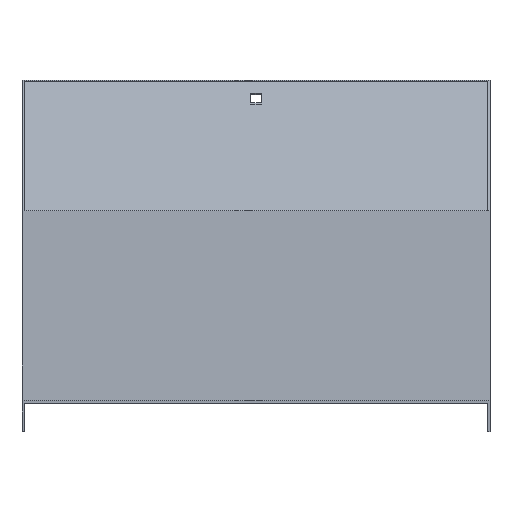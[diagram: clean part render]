
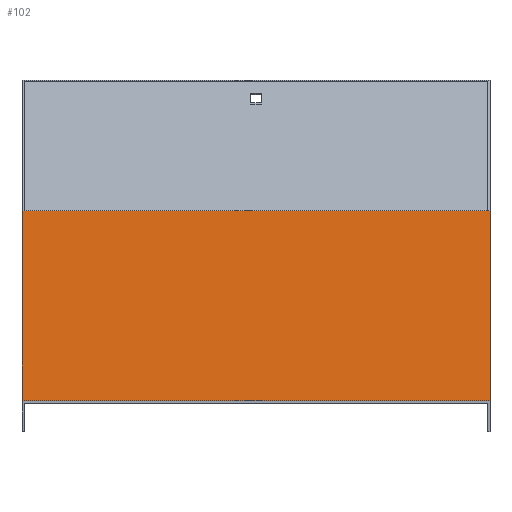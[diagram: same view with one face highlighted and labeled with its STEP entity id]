
A CAD part, top view. The second image highlights one B-rep face of the part: STEP entity #102.
In plain terms, the highlighted planar face has unit normal (0, 0.924, 0.383).
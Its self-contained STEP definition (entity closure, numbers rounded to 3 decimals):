
#15 = VERTEX_POINT ( 'NONE', #291 ) ;
#56 = EDGE_CURVE ( 'NONE', #15, #807, #751, .T. ) ;
#68 = PLANE ( 'NONE',  #195 ) ;
#71 = CARTESIAN_POINT ( 'NONE',  ( -151.5, 0., -120. ) ) ;
#75 = DIRECTION ( 'NONE',  ( -1., 0., 0. ) ) ;
#99 = VERTEX_POINT ( 'NONE', #71 ) ;
#100 = EDGE_CURVE ( 'NONE', #99, #680, #471, .T. ) ;
#102 = ADVANCED_FACE ( 'NONE', ( #544 ), #68, .T. ) ;
#127 = ORIENTED_EDGE ( 'NONE', *, *, #100, .F. ) ;
#128 = DIRECTION ( 'NONE',  ( 0., 0.383, -0.924 ) ) ;
#135 = VECTOR ( 'NONE', #504, 1000. ) ;
#169 = CARTESIAN_POINT ( 'NONE',  ( -151.5, 123.607, -418.413 ) ) ;
#195 = AXIS2_PLACEMENT_3D ( 'NONE', #209, #216, #413 ) ;
#209 = CARTESIAN_POINT ( 'NONE',  ( 151.5, 0., -120. ) ) ;
#216 = DIRECTION ( 'NONE',  ( 0., 0.924, 0.383 ) ) ;
#224 = ORIENTED_EDGE ( 'NONE', *, *, #56, .T. ) ;
#262 = EDGE_LOOP ( 'NONE', ( #127, #661, #224, #593 ) ) ;
#288 = CARTESIAN_POINT ( 'NONE',  ( 151.5, 0., -120. ) ) ;
#291 = CARTESIAN_POINT ( 'NONE',  ( 151.5, 0., -120. ) ) ;
#313 = EDGE_CURVE ( 'NONE', #15, #99, #806, .T. ) ;
#357 = EDGE_CURVE ( 'NONE', #807, #680, #644, .T. ) ;
#413 = DIRECTION ( 'NONE',  ( 0., -0.383, 0.924 ) ) ;
#442 = DIRECTION ( 'NONE',  ( -1., 0., 0. ) ) ;
#471 = LINE ( 'NONE', #483, #683 ) ;
#483 = CARTESIAN_POINT ( 'NONE',  ( -151.5, 0., -120. ) ) ;
#504 = DIRECTION ( 'NONE',  ( 0., 0.383, -0.924 ) ) ;
#537 = CARTESIAN_POINT ( 'NONE',  ( 151.5, 0., -120. ) ) ;
#544 = FACE_OUTER_BOUND ( 'NONE', #262, .T. ) ;
#593 = ORIENTED_EDGE ( 'NONE', *, *, #357, .T. ) ;
#644 = LINE ( 'NONE', #832, #731 ) ;
#661 = ORIENTED_EDGE ( 'NONE', *, *, #313, .F. ) ;
#667 = VECTOR ( 'NONE', #75, 1000. ) ;
#680 = VERTEX_POINT ( 'NONE', #169 ) ;
#683 = VECTOR ( 'NONE', #128, 1000. ) ;
#731 = VECTOR ( 'NONE', #442, 1000. ) ;
#751 = LINE ( 'NONE', #288, #135 ) ;
#806 = LINE ( 'NONE', #537, #667 ) ;
#807 = VERTEX_POINT ( 'NONE', #845 ) ;
#832 = CARTESIAN_POINT ( 'NONE',  ( 151.5, 123.607, -418.413 ) ) ;
#845 = CARTESIAN_POINT ( 'NONE',  ( 151.5, 123.607, -418.413 ) ) ;
